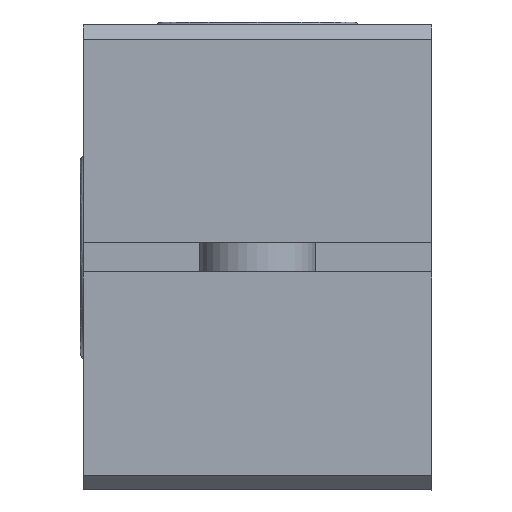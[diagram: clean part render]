
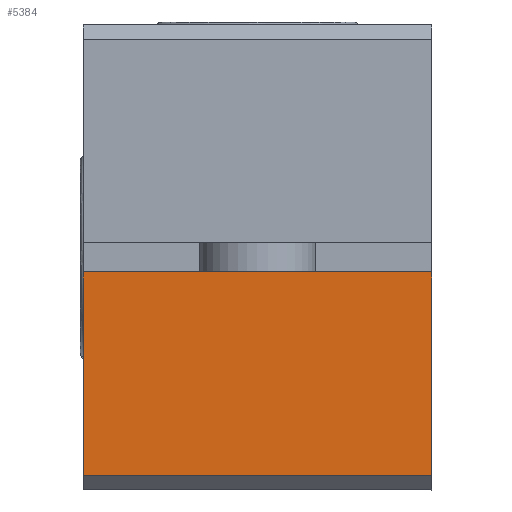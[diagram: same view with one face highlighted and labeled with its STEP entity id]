
A CAD part, left-side view. The second image highlights one B-rep face of the part: STEP entity #5384.
In plain terms, the highlighted planar face has unit normal (-1, 0, 0).
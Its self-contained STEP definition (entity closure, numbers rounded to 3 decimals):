
#118 = ORIENTED_EDGE ( 'NONE', *, *, #10612, .T. ) ;
#1103 = LINE ( 'NONE', #11875, #14459 ) ;
#1543 = DIRECTION ( 'NONE',  ( 0., 0., -1. ) ) ;
#1797 = CARTESIAN_POINT ( 'NONE',  ( -41.31, 12.681, -0.5 ) ) ;
#2058 = ORIENTED_EDGE ( 'NONE', *, *, #21775, .F. ) ;
#2973 = CARTESIAN_POINT ( 'NONE',  ( -41.31, 24.681, -0.5 ) ) ;
#3093 = FACE_OUTER_BOUND ( 'NONE', #9009, .T. ) ;
#3563 = LINE ( 'NONE', #3726, #19930 ) ;
#3694 = CARTESIAN_POINT ( 'NONE',  ( -41.31, 24.681, -7.5 ) ) ;
#3726 = CARTESIAN_POINT ( 'NONE',  ( -41.31, 18.681, -0.5 ) ) ;
#5112 = DIRECTION ( 'NONE',  ( 1., 0., 0. ) ) ;
#5384 = ADVANCED_FACE ( 'NONE', ( #3093 ), #20728, .F. ) ;
#6642 = VERTEX_POINT ( 'NONE', #2973 ) ;
#6654 = VECTOR ( 'NONE', #17944, 1000. ) ;
#7334 = EDGE_CURVE ( 'NONE', #14261, #10993, #9172, .T. ) ;
#9009 = EDGE_LOOP ( 'NONE', ( #2058, #11545, #118, #11248 ) ) ;
#9172 = LINE ( 'NONE', #13573, #13221 ) ;
#10612 = EDGE_CURVE ( 'NONE', #6642, #10993, #11237, .T. ) ;
#10993 = VERTEX_POINT ( 'NONE', #3694 ) ;
#11237 = LINE ( 'NONE', #16214, #6654 ) ;
#11248 = ORIENTED_EDGE ( 'NONE', *, *, #7334, .F. ) ;
#11545 = ORIENTED_EDGE ( 'NONE', *, *, #16057, .F. ) ;
#11875 = CARTESIAN_POINT ( 'NONE',  ( -41.31, 12.681, 0. ) ) ;
#13221 = VECTOR ( 'NONE', #15429, 1000. ) ;
#13573 = CARTESIAN_POINT ( 'NONE',  ( -41.31, 18.681, -7.5 ) ) ;
#14155 = DIRECTION ( 'NONE',  ( 0., -1., 0. ) ) ;
#14261 = VERTEX_POINT ( 'NONE', #16325 ) ;
#14459 = VECTOR ( 'NONE', #1543, 1000. ) ;
#15429 = DIRECTION ( 'NONE',  ( 0., 1., 0. ) ) ;
#15552 = CARTESIAN_POINT ( 'NONE',  ( -41.31, 12.681, -0.5 ) ) ;
#16057 = EDGE_CURVE ( 'NONE', #6642, #21383, #3563, .T. ) ;
#16214 = CARTESIAN_POINT ( 'NONE',  ( -41.31, 24.681, 0. ) ) ;
#16325 = CARTESIAN_POINT ( 'NONE',  ( -41.31, 12.681, -7.5 ) ) ;
#17282 = DIRECTION ( 'NONE',  ( 0., 0., -1. ) ) ;
#17706 = AXIS2_PLACEMENT_3D ( 'NONE', #15552, #5112, #17282 ) ;
#17944 = DIRECTION ( 'NONE',  ( 0., 0., -1. ) ) ;
#19930 = VECTOR ( 'NONE', #14155, 1000. ) ;
#20728 = PLANE ( 'NONE',  #17706 ) ;
#21383 = VERTEX_POINT ( 'NONE', #1797 ) ;
#21775 = EDGE_CURVE ( 'NONE', #21383, #14261, #1103, .T. ) ;
